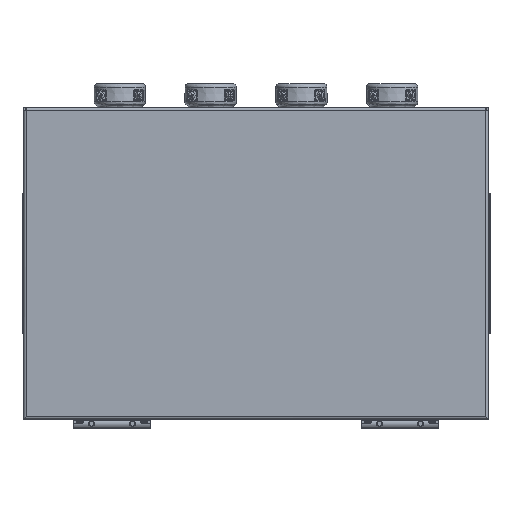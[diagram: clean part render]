
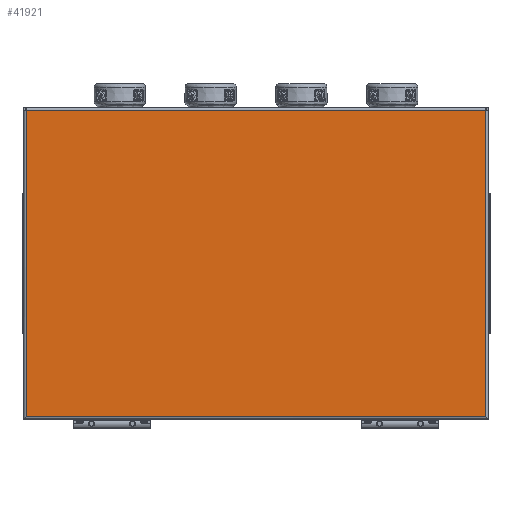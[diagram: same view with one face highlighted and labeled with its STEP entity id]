
A CAD part, front view. The second image highlights one B-rep face of the part: STEP entity #41921.
In plain terms, the highlighted planar face has unit normal (0, -1, 0).
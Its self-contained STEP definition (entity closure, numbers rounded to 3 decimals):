
#3082 = CARTESIAN_POINT ( 'NONE',  ( 8.536, -3.05, 23.811 ) ) ;
#3699 = ORIENTED_EDGE ( 'NONE', *, *, #59401, .F. ) ;
#4274 = EDGE_LOOP ( 'NONE', ( #32678, #46124, #3699, #66786 ) ) ;
#4874 = EDGE_CURVE ( 'NONE', #29892, #54112, #16180, .T. ) ;
#6287 = DIRECTION ( 'NONE',  ( -1., 0., 0. ) ) ;
#6548 = LINE ( 'NONE', #40777, #49983 ) ;
#8616 = LINE ( 'NONE', #58753, #23737 ) ;
#12201 = CARTESIAN_POINT ( 'NONE',  ( 8.536, -3.05, 11.99 ) ) ;
#12883 = DIRECTION ( 'NONE',  ( 0., 1., 0. ) ) ;
#16180 = LINE ( 'NONE', #20067, #44557 ) ;
#20067 = CARTESIAN_POINT ( 'NONE',  ( -9.184, -3.05, 11.989 ) ) ;
#23737 = VECTOR ( 'NONE', #30829, 39.37 ) ;
#26515 = AXIS2_PLACEMENT_3D ( 'NONE', #41130, #12883, #52470 ) ;
#29892 = VERTEX_POINT ( 'NONE', #61499 ) ;
#30829 = DIRECTION ( 'NONE',  ( 0., 0., -1. ) ) ;
#32678 = ORIENTED_EDGE ( 'NONE', *, *, #4874, .F. ) ;
#34577 = CARTESIAN_POINT ( 'NONE',  ( -9.185, -3.05, 11.99 ) ) ;
#40777 = CARTESIAN_POINT ( 'NONE',  ( -9.274, -3.05, 23.811 ) ) ;
#41130 = CARTESIAN_POINT ( 'NONE',  ( -9.274, -3.05, 23.9 ) ) ;
#41921 = ADVANCED_FACE ( 'NONE', ( #71115 ), #57920, .F. ) ;
#42771 = VECTOR ( 'NONE', #6287, 39.37 ) ;
#44557 = VECTOR ( 'NONE', #48255, 39.37 ) ;
#46124 = ORIENTED_EDGE ( 'NONE', *, *, #63173, .F. ) ;
#46471 = DIRECTION ( 'NONE',  ( 1., 0., 0. ) ) ;
#48255 = DIRECTION ( 'NONE',  ( 0., 0., 1. ) ) ;
#48266 = VERTEX_POINT ( 'NONE', #12201 ) ;
#49983 = VECTOR ( 'NONE', #46471, 39.37 ) ;
#52470 = DIRECTION ( 'NONE',  ( 0., 0., 1. ) ) ;
#54112 = VERTEX_POINT ( 'NONE', #67931 ) ;
#57920 = PLANE ( 'NONE',  #26515 ) ;
#58753 = CARTESIAN_POINT ( 'NONE',  ( 8.536, -3.05, 11.989 ) ) ;
#59401 = EDGE_CURVE ( 'NONE', #72831, #48266, #8616, .T. ) ;
#59535 = LINE ( 'NONE', #34577, #42771 ) ;
#61499 = CARTESIAN_POINT ( 'NONE',  ( -9.184, -3.05, 11.99 ) ) ;
#63173 = EDGE_CURVE ( 'NONE', #48266, #29892, #59535, .T. ) ;
#66786 = ORIENTED_EDGE ( 'NONE', *, *, #73122, .F. ) ;
#67931 = CARTESIAN_POINT ( 'NONE',  ( -9.184, -3.05, 23.811 ) ) ;
#71115 = FACE_OUTER_BOUND ( 'NONE', #4274, .T. ) ;
#72831 = VERTEX_POINT ( 'NONE', #3082 ) ;
#73122 = EDGE_CURVE ( 'NONE', #54112, #72831, #6548, .T. ) ;
